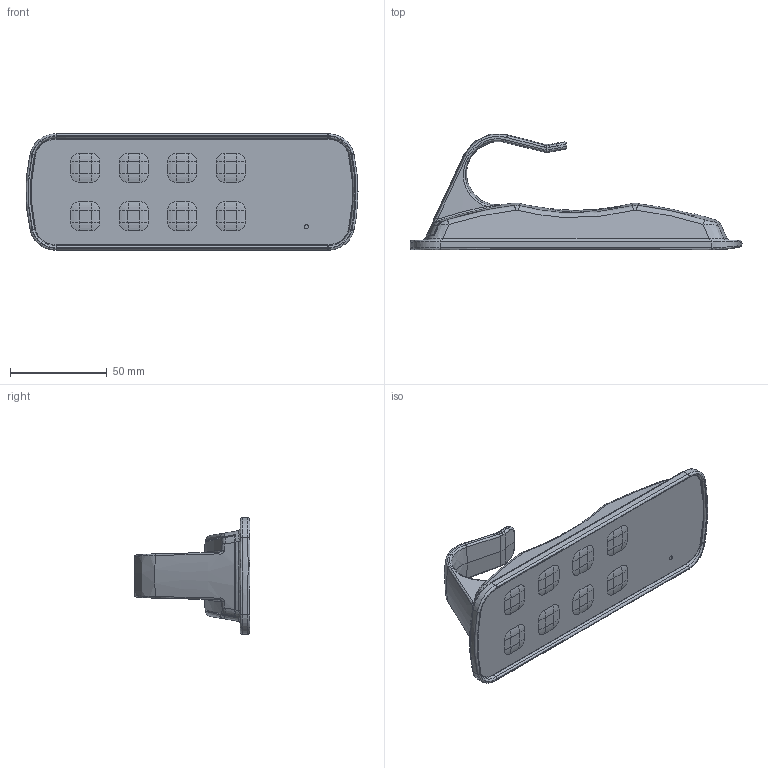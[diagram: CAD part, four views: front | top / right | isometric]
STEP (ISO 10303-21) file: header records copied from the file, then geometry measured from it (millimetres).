
FILE_DESCRIPTION((''),'2;1');
FILE_NAME('1031W4000_ASM','2020-03-04T12:19:01',('psj'),(''),'CREO PARAMETRIC BY PTC INC, 2019344','CREO PARAMETRIC BY PTC INC, 2019344','');
FILE_SCHEMA(('AUTOMOTIVE_DESIGN { 1 0 10303 214 1 1 1 1 }'));
Products named in the file (4): 1031W4000-BP; 1031W4000-HK; 031W4000-LID; 1031W4000_ASM
Assembly tree (3 placements, depth 2):
  1031W4000_ASM
    1031W4000-BP
    1031W4000-HK
    031W4000-LID
Bounding box: 171.19 x 59.76 x 60 mm (x, y, z)
Volume: 127203.6 mm3; surface area: 50778.4 mm2
Topology: 3 solids, 3 shells, 1236 faces, 3081 edges, 1891 vertices
Faces by surface type: bspline 437, cylinder 346, plane 343, torus 53, sphere 26, extrusion 16, cone 15
Entity records: 61531 total; most frequent: CARTESIAN_POINT 34799, ORIENTED_EDGE 6162, DIRECTION 4040, EDGE_CURVE 3081, VERTEX_POINT 1891, AXIS2_PLACEMENT_3D 1469, B_SPLINE_CURVE_WITH_KNOTS 1332, EDGE_LOOP 1286
